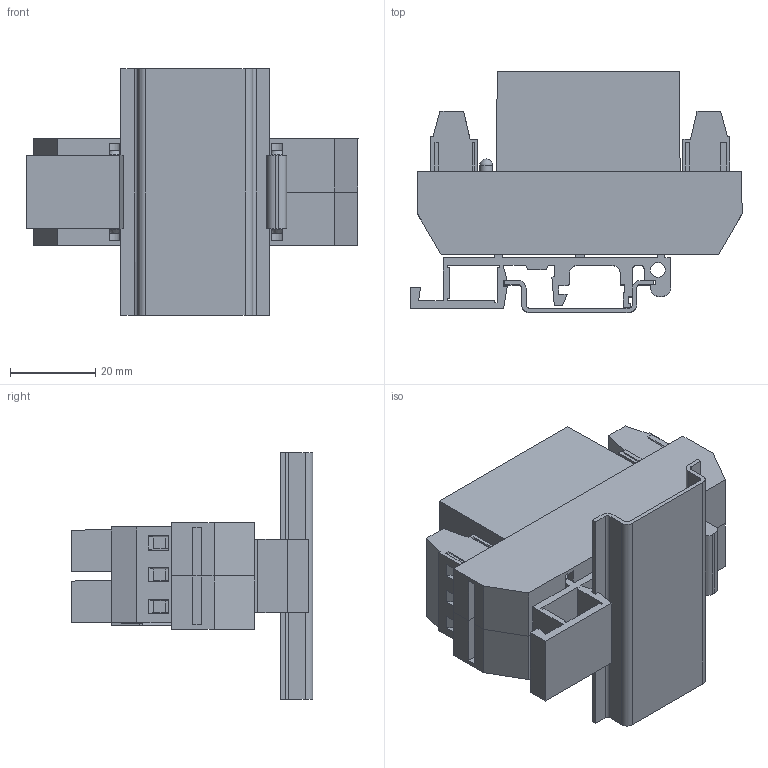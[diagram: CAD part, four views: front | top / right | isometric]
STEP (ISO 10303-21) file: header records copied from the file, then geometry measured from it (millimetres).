
FILE_DESCRIPTION(/* description */ (''),/* implementation_level */ '2;1');
FILE_NAME(/* name */ 'C:\Users\gmarion\Desktop\2D3D 629 A\2D3D 629 A.stp',/* time_stamp */ '2015-06-24T09:42:06+02:00',/* author */ ('gmarion'),/* organization */ (''),/* preprocessor_version */ 'ST-DEVELOPER v15.2',/* originating_system */ 'Autodesk Inventor 2014',/* authorisation */ '');
FILE_SCHEMA (('AUTOMOTIVE_DESIGN { 1 0 10303 214 3 1 1 }'));
Length unit declared in the file: millimetre
Products named in the file (8): 1YS72010; SKA; 1N703600; DEL Ø3; MV273-7 5-V 3pts; rail din L58; 1YS72120; XKM22440
Assembly tree (10 placements, depth 2):
  XKM22440
    1YS72010
    SKA  x2
    1N703600
    DEL Ø3
    MV273-7 5-V 3pts  x2
    rail din L58
    1YS72120  x2
Bounding box: 77.99 x 56.73 x 58 mm (x, y, z)
Volume: 71451.6 mm3; surface area: 78109.1 mm2
Topology: 16 solids, 22 shells, 625 faces, 1644 edges, 1082 vertices
Faces by surface type: plane 524, cylinder 82, cone 10, sphere 9
Full cylindrical faces by diameter (mm): 0.5 x2, 0.9 x2, 1 x8, 1.33 x14, 3 x1, 3.1 x18, 3.5 x1, 3.95 x2, 4 x6
Entity records: 11666 total; most frequent: CARTESIAN_POINT 1993, ORIENTED_EDGE 1890, DIRECTION 1886, EDGE_CURVE 942, LINE 804, VECTOR 804, VERTEX_POINT 648, AXIS2_PLACEMENT_3D 541
